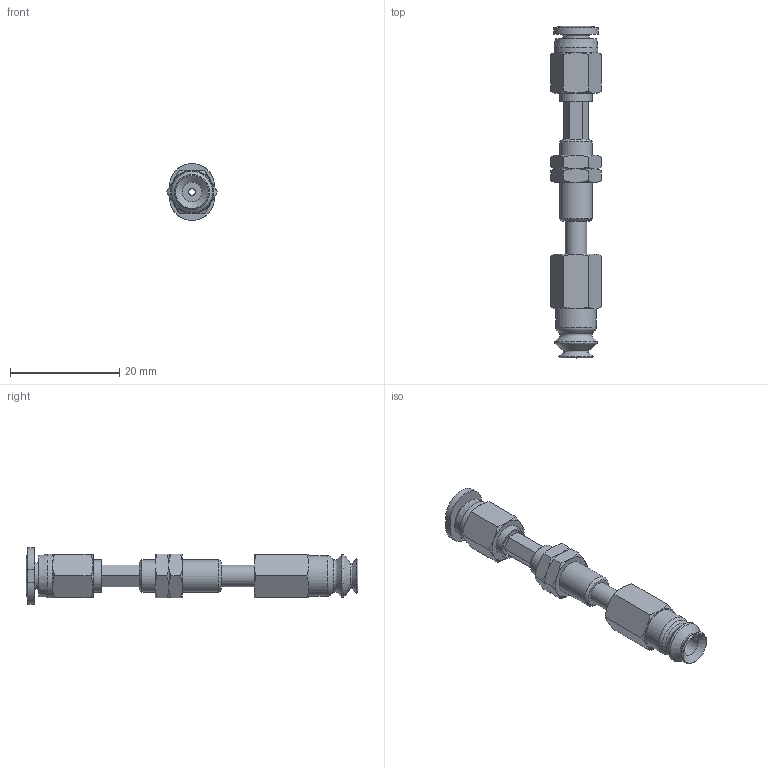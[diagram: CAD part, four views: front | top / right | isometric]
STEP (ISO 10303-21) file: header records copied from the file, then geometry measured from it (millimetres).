
FILE_DESCRIPTION(('STEP AP203'),'1');
FILE_NAME('-O.stp','2025-08-27T07:21:26',(' '),(' '),'Spatial InterOp 3D',' ',' ');
FILE_SCHEMA(('CONFIG_CONTROL_DESIGN'));
Length unit declared in the file: millimetre
Products named in the file (7): BNABPJTS-6-6-※-O; ADAPTER; NAPCTS-7-6-MBODY; NUT-NAPJ-6-6-s; NAPJTS-6-6-FBODY; BPJG-6-※; PC-C_04-M3
Assembly tree (7 placements, depth 2):
  BNABPJTS-6-6-※-O
    ADAPTER
    NAPCTS-7-6-MBODY
    NUT-NAPJ-6-6-s  x2
    NAPJTS-6-6-FBODY
    BPJG-6-※
    PC-C_04-M3
Bounding box: 9.24 x 60.77 x 10.4 mm (x, y, z)
Volume: 1516.1 mm3; surface area: 3012 mm2
Topology: 6 solids, 8 shells, 170 faces, 354 edges, 210 vertices
Faces by surface type: cone 67, plane 62, cylinder 23, torus 11, bspline 4, revolution 3
Full cylindrical faces by diameter (mm): 1.2 x2, 2.459 x1, 2.5 x2, 3 x1, 3.64 x1, 4 x4, 4.9 x1, 5.188 x2, 6 x4, 6.1 x1, 7.5 x1, 8 x1
Entity records: 4240 total; most frequent: CARTESIAN_POINT 1133, DIRECTION 581, ORIENTED_EDGE 488, AXIS2_PLACEMENT_3D 262, EDGE_CURVE 245, EDGE_LOOP 217, VERTEX_POINT 170, FACE_OUTER_BOUND 118
